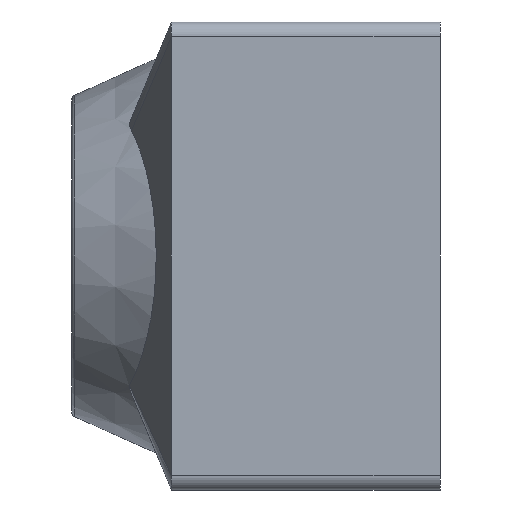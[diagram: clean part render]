
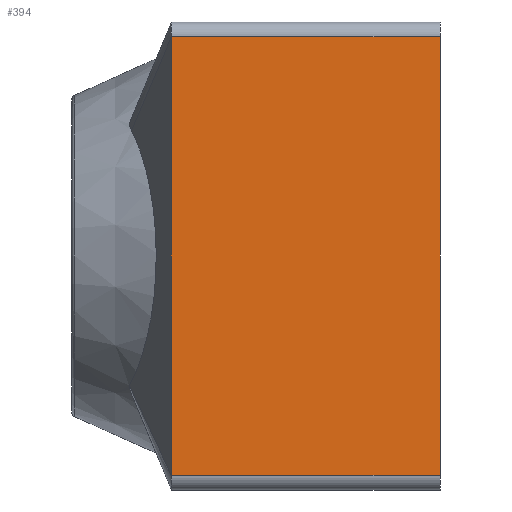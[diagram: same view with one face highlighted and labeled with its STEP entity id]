
A CAD part, front view. The second image highlights one B-rep face of the part: STEP entity #394.
In plain terms, the highlighted planar face has unit normal (0, -1, 0).
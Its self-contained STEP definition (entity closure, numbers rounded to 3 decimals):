
#54=FACE_OUTER_BOUND('',#79,.T.);
#79=EDGE_LOOP('',(#307,#308,#309,#310));
#103=LINE('',#674,#139);
#113=LINE('',#732,#149);
#114=LINE('',#735,#150);
#115=LINE('',#736,#151);
#139=VECTOR('',#472,44.);
#149=VECTOR('',#502,27.);
#150=VECTOR('',#505,27.);
#151=VECTOR('',#506,44.);
#182=VERTEX_POINT('',#667);
#184=VERTEX_POINT('',#673);
#191=VERTEX_POINT('',#728);
#193=VERTEX_POINT('',#734);
#222=EDGE_CURVE('',#182,#184,#103,.T.);
#238=EDGE_CURVE('',#184,#191,#113,.T.);
#239=EDGE_CURVE('',#193,#182,#114,.T.);
#240=EDGE_CURVE('',#191,#193,#115,.T.);
#307=ORIENTED_EDGE('',*,*,#238,.F.);
#308=ORIENTED_EDGE('',*,*,#222,.F.);
#309=ORIENTED_EDGE('',*,*,#239,.F.);
#310=ORIENTED_EDGE('',*,*,#240,.F.);
#372=PLANE('',#428);
#394=ADVANCED_FACE('',(#54),#372,.T.);
#428=AXIS2_PLACEMENT_3D('',#733,#503,#504);
#472=DIRECTION('',(0.,0.,1.));
#502=DIRECTION('',(1.,0.,0.));
#503=DIRECTION('center_axis',(0.,-1.,0.));
#504=DIRECTION('ref_axis',(0.,0.,-1.));
#505=DIRECTION('',(-1.,0.,0.));
#506=DIRECTION('',(0.,0.,-1.));
#667=CARTESIAN_POINT('',(0.,-23.5,-22.));
#673=CARTESIAN_POINT('',(0.,-23.5,22.));
#674=CARTESIAN_POINT('',(0.,-23.5,-23.5));
#728=CARTESIAN_POINT('',(27.,-23.5,22.));
#732=CARTESIAN_POINT('',(0.,-23.5,22.));
#733=CARTESIAN_POINT('Origin',(0.,-23.5,23.5));
#734=CARTESIAN_POINT('',(27.,-23.5,-22.));
#735=CARTESIAN_POINT('',(0.,-23.5,-22.));
#736=CARTESIAN_POINT('',(27.,-23.5,-23.5));
